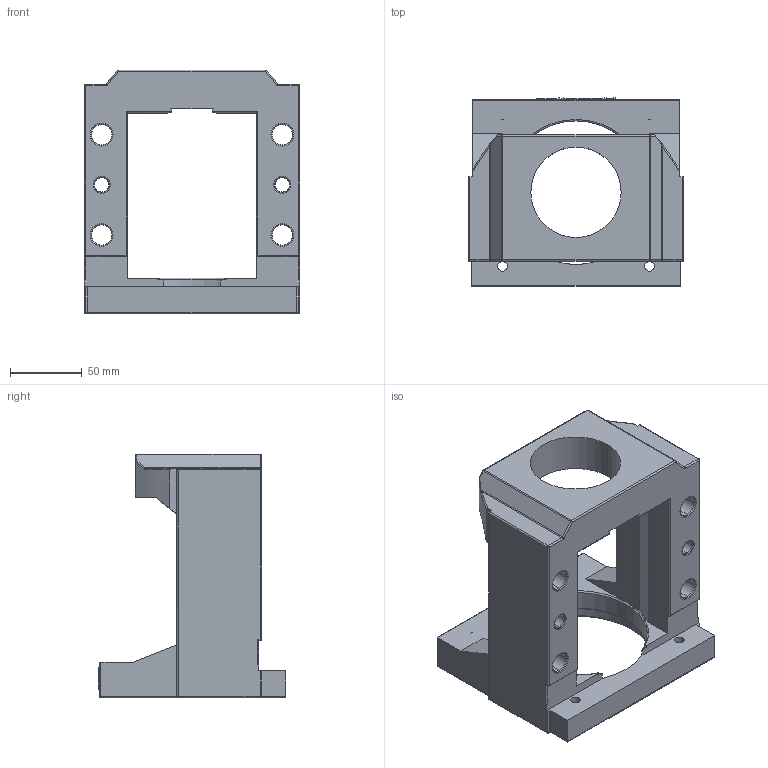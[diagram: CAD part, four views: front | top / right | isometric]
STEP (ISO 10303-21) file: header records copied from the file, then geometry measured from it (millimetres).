
FILE_DESCRIPTION((''),'2;1');
FILE_NAME('M130G-FK25-L-B','2020-07-04T',('Administrator'),(''),'PRO/ENGINEER BY PARAMETRIC TECHNOLOGY CORPORATION, 2010280','PRO/ENGINEER BY PARAMETRIC TECHNOLOGY CORPORATION, 2010280','');
FILE_SCHEMA(('CONFIG_CONTROL_DESIGN'));
Length unit declared in the file: millimetre
Products named in the file (1): M130G-FK25-L-B
Bounding box: 150 x 131 x 170 mm (x, y, z)
Volume: 806797.3 mm3; surface area: 130966.1 mm2
Topology: 1 solids, 1 shells, 364 faces, 945 edges, 578 vertices
Faces by surface type: plane 125, cylinder 99, torus 55, extrusion 47, cone 20, sphere 14, bspline 4
Entity records: 11960 total; most frequent: CARTESIAN_POINT 3175, ORIENTED_EDGE 1846, DIRECTION 1745, EDGE_CURVE 923, AXIS2_PLACEMENT_3D 608, VERTEX_POINT 578, VECTOR 529, LINE 482
